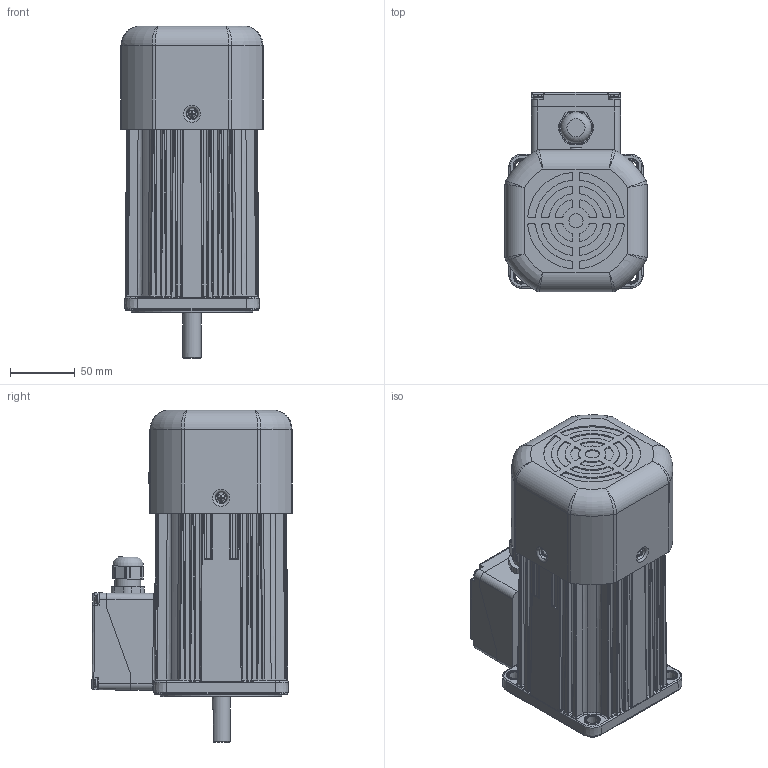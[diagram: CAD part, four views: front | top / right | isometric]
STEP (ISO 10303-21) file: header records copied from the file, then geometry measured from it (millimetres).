
FILE_DESCRIPTION (( 'STEP AP214' ), '1' );
FILE_NAME ('10BDDE-250F-T.STEP', '2025-01-13T07:55:54', ( '' ), ( '' ), 'SwSTEP 2.0', 'SolidWorks 2024', '' );
FILE_SCHEMA (( 'AUTOMOTIVE_DESIGN' ));
Length unit declared in the file: millimetre
Products named in the file (3): 10BDDE-250F; TB8090; 10BDDE-250F-T
Assembly tree (2 placements, depth 2):
  10BDDE-250F-T
    10BDDE-250F
    TB8090
Bounding box: 110 x 154.94 x 257 mm (x, y, z)
Volume: 2351100.4 mm3; surface area: 160108.8 mm2
Topology: 4 solids, 4 shells, 910 faces, 2321 edges, 1432 vertices
Faces by surface type: plane 391, cylinder 262, bspline 158, cone 80, torus 13, sphere 6
Full cylindrical faces by diameter (mm): 4 x1, 5.8 x4, 6.7 x4, 8 x4, 11 x1, 14 x1, 18 x1, 20 x1, 43 x1, 94 x1
Entity records: 48824 total; most frequent: CARTESIAN_POINT 28613, ORIENTED_EDGE 4404, DIRECTION 3747, EDGE_CURVE 2202, VERTEX_POINT 1412, AXIS2_PLACEMENT_3D 1314, LINE 1119, VECTOR 1119
